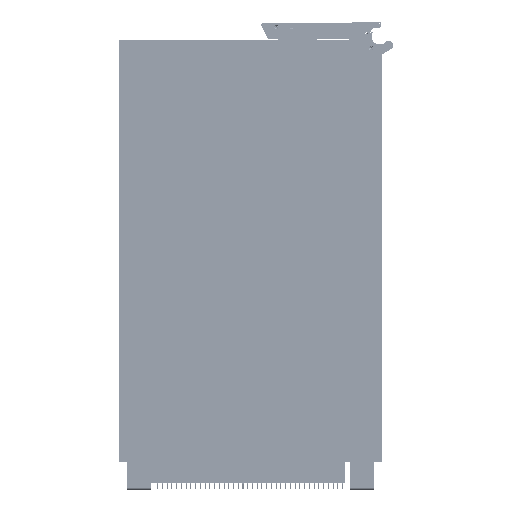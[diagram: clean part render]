
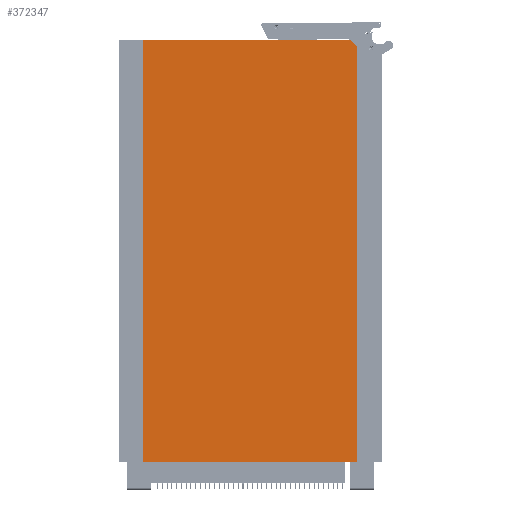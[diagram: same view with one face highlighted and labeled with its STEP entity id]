
A CAD part, front view. The second image highlights one B-rep face of the part: STEP entity #372347.
In plain terms, the highlighted planar face has unit normal (0, -1, 0).
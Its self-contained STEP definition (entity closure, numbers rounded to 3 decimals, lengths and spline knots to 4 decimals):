
#23372 = PLANE ( 'NONE',  #674659 ) ;
#39678 = VERTEX_POINT ( 'NONE', #64931 ) ;
#42143 = VERTEX_POINT ( 'NONE', #280957 ) ;
#64931 = CARTESIAN_POINT ( 'NONE',  ( -1.5985, -0.755, -6.2992 ) ) ;
#71357 = ORIENTED_EDGE ( 'NONE', *, *, #692421, .T. ) ;
#81185 = DIRECTION ( 'NONE',  ( 0., 1., 0. ) ) ;
#84445 = CARTESIAN_POINT ( 'NONE',  ( 1.5985, -0.755, -6.2992 ) ) ;
#96177 = VERTEX_POINT ( 'NONE', #230141 ) ;
#106736 = VECTOR ( 'NONE', #287938, 39.3701 ) ;
#128103 = DIRECTION ( 'NONE',  ( -1., 0., 0. ) ) ;
#145665 = LINE ( 'NONE', #316043, #603952 ) ;
#147521 = ORIENTED_EDGE ( 'NONE', *, *, #231103, .T. ) ;
#185590 = DIRECTION ( 'NONE',  ( -1., 0., 0. ) ) ;
#185823 = CARTESIAN_POINT ( 'NONE',  ( 0., -0.755, 0. ) ) ;
#187573 = EDGE_CURVE ( 'NONE', #42143, #740330, #356155, .T. ) ;
#230141 = CARTESIAN_POINT ( 'NONE',  ( 1.5985, -0.755, -0.1 ) ) ;
#231103 = EDGE_CURVE ( 'NONE', #345004, #96177, #699952, .T. ) ;
#252821 = CARTESIAN_POINT ( 'NONE',  ( -1.5985, -0.755, 0. ) ) ;
#256606 = LINE ( 'NONE', #705509, #544215 ) ;
#261746 = FACE_OUTER_BOUND ( 'NONE', #476925, .T. ) ;
#280957 = CARTESIAN_POINT ( 'NONE',  ( 1.4985, -0.755, 0. ) ) ;
#287938 = DIRECTION ( 'NONE',  ( 0., 0., 1. ) ) ;
#316043 = CARTESIAN_POINT ( 'NONE',  ( -1.5985, -0.755, -6.2992 ) ) ;
#331713 = LINE ( 'NONE', #523590, #466593 ) ;
#345004 = VERTEX_POINT ( 'NONE', #84445 ) ;
#356155 = LINE ( 'NONE', #185823, #589574 ) ;
#356479 = ORIENTED_EDGE ( 'NONE', *, *, #389444, .F. ) ;
#372347 = ADVANCED_FACE ( 'NONE', ( #261746 ), #23372, .F. ) ;
#389444 = EDGE_CURVE ( 'NONE', #39678, #740330, #145665, .T. ) ;
#428235 = ORIENTED_EDGE ( 'NONE', *, *, #569428, .F. ) ;
#466593 = VECTOR ( 'NONE', #521129, 39.3701 ) ;
#476925 = EDGE_LOOP ( 'NONE', ( #147521, #71357, #643144, #356479, #428235 ) ) ;
#482961 = DIRECTION ( 'NONE',  ( -1., 0., 0. ) ) ;
#521129 = DIRECTION ( 'NONE',  ( -0.707, 0., 0.707 ) ) ;
#523590 = CARTESIAN_POINT ( 'NONE',  ( 1.5985, -0.755, -0.1 ) ) ;
#544215 = VECTOR ( 'NONE', #185590, 39.3701 ) ;
#569428 = EDGE_CURVE ( 'NONE', #345004, #39678, #256606, .T. ) ;
#589574 = VECTOR ( 'NONE', #128103, 39.3701 ) ;
#595869 = CARTESIAN_POINT ( 'NONE',  ( 0., -0.755, -6.2992 ) ) ;
#603952 = VECTOR ( 'NONE', #660274, 39.3701 ) ;
#632101 = CARTESIAN_POINT ( 'NONE',  ( 1.5985, -0.755, -6.2992 ) ) ;
#643144 = ORIENTED_EDGE ( 'NONE', *, *, #187573, .T. ) ;
#660274 = DIRECTION ( 'NONE',  ( 0., 0., 1. ) ) ;
#674659 = AXIS2_PLACEMENT_3D ( 'NONE', #595869, #81185, #482961 ) ;
#692421 = EDGE_CURVE ( 'NONE', #96177, #42143, #331713, .T. ) ;
#699952 = LINE ( 'NONE', #632101, #106736 ) ;
#705509 = CARTESIAN_POINT ( 'NONE',  ( 0., -0.755, -6.2992 ) ) ;
#740330 = VERTEX_POINT ( 'NONE', #252821 ) ;
